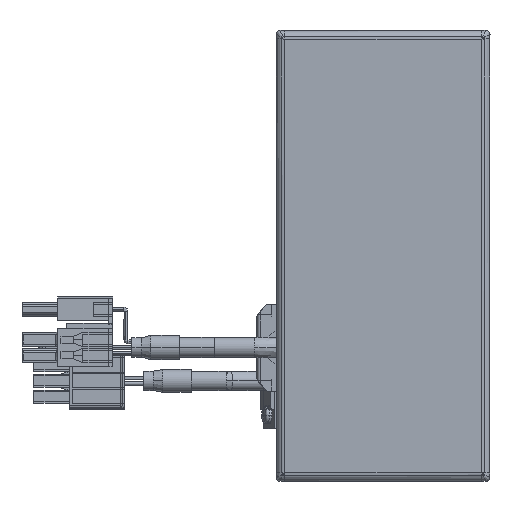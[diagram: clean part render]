
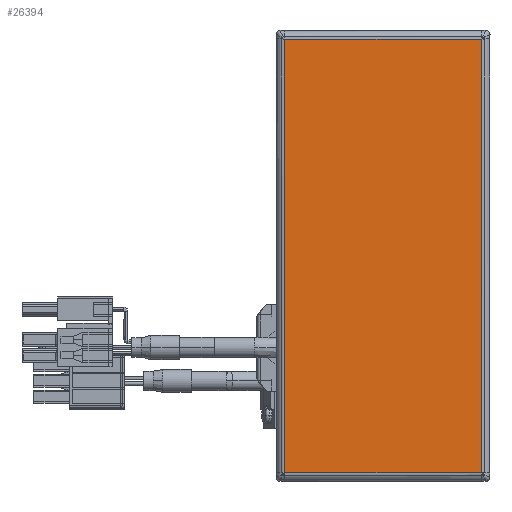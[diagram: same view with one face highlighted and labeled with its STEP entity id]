
A CAD part, top view. The second image highlights one B-rep face of the part: STEP entity #26394.
In plain terms, the highlighted planar face has unit normal (0, 0, 1) as drawn and (0, 0, -1) by its records, which use the part's own axes.
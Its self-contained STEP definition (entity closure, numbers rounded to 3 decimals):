
#2467 = AXIS2_PLACEMENT_3D ( 'NONE', #34920, #30510, #2848 ) ;
#2848 = DIRECTION ( 'NONE',  ( -1., 0., 0. ) ) ;
#3043 = CARTESIAN_POINT ( 'NONE',  ( 56.793, -25.763, -1.5 ) ) ;
#4222 = CARTESIAN_POINT ( 'NONE',  ( 56.763, 25.763, -1.5 ) ) ;
#5932 = EDGE_LOOP ( 'NONE', ( #28887, #31053, #41931, #58239 ) ) ;
#6743 = VECTOR ( 'NONE', #40154, 1000. ) ;
#9936 = CARTESIAN_POINT ( 'NONE',  ( -56.763, 25.763, -1.5 ) ) ;
#11118 = VERTEX_POINT ( 'NONE', #9936 ) ;
#13437 = VECTOR ( 'NONE', #41403, 1000. ) ;
#14515 = VERTEX_POINT ( 'NONE', #4222 ) ;
#14941 = VECTOR ( 'NONE', #22383, 1000. ) ;
#16287 = EDGE_CURVE ( 'NONE', #11118, #14515, #40929, .T. ) ;
#17713 = CARTESIAN_POINT ( 'NONE',  ( -56.793, 25.763, -1.5 ) ) ;
#19038 = LINE ( 'NONE', #3043, #6743 ) ;
#19438 = EDGE_CURVE ( 'NONE', #14515, #29687, #56319, .T. ) ;
#22383 = DIRECTION ( 'NONE',  ( 1., 0., 0. ) ) ;
#25618 = CARTESIAN_POINT ( 'NONE',  ( 56.763, 25.793, -1.5 ) ) ;
#25708 = LINE ( 'NONE', #46044, #13437 ) ;
#26394 = ADVANCED_FACE ( 'NONE', ( #58062 ), #48844, .T. ) ;
#28887 = ORIENTED_EDGE ( 'NONE', *, *, #19438, .T. ) ;
#29687 = VERTEX_POINT ( 'NONE', #57202 ) ;
#30510 = DIRECTION ( 'NONE',  ( 0., 0., -1. ) ) ;
#31053 = ORIENTED_EDGE ( 'NONE', *, *, #43902, .T. ) ;
#31723 = VECTOR ( 'NONE', #44176, 1000. ) ;
#32813 = VERTEX_POINT ( 'NONE', #52849 ) ;
#34920 = CARTESIAN_POINT ( 'NONE',  ( 0., 0., -1.5 ) ) ;
#40154 = DIRECTION ( 'NONE',  ( -1., 0., 0. ) ) ;
#40929 = LINE ( 'NONE', #17713, #14941 ) ;
#41403 = DIRECTION ( 'NONE',  ( 0., 1., 0. ) ) ;
#41931 = ORIENTED_EDGE ( 'NONE', *, *, #42446, .T. ) ;
#42446 = EDGE_CURVE ( 'NONE', #32813, #11118, #25708, .T. ) ;
#43902 = EDGE_CURVE ( 'NONE', #29687, #32813, #19038, .T. ) ;
#44176 = DIRECTION ( 'NONE',  ( 0., -1., 0. ) ) ;
#46044 = CARTESIAN_POINT ( 'NONE',  ( -56.763, -25.793, -1.5 ) ) ;
#48844 = PLANE ( 'NONE',  #2467 ) ;
#52849 = CARTESIAN_POINT ( 'NONE',  ( -56.763, -25.763, -1.5 ) ) ;
#56319 = LINE ( 'NONE', #25618, #31723 ) ;
#57202 = CARTESIAN_POINT ( 'NONE',  ( 56.763, -25.763, -1.5 ) ) ;
#58062 = FACE_OUTER_BOUND ( 'NONE', #5932, .T. ) ;
#58239 = ORIENTED_EDGE ( 'NONE', *, *, #16287, .T. ) ;
